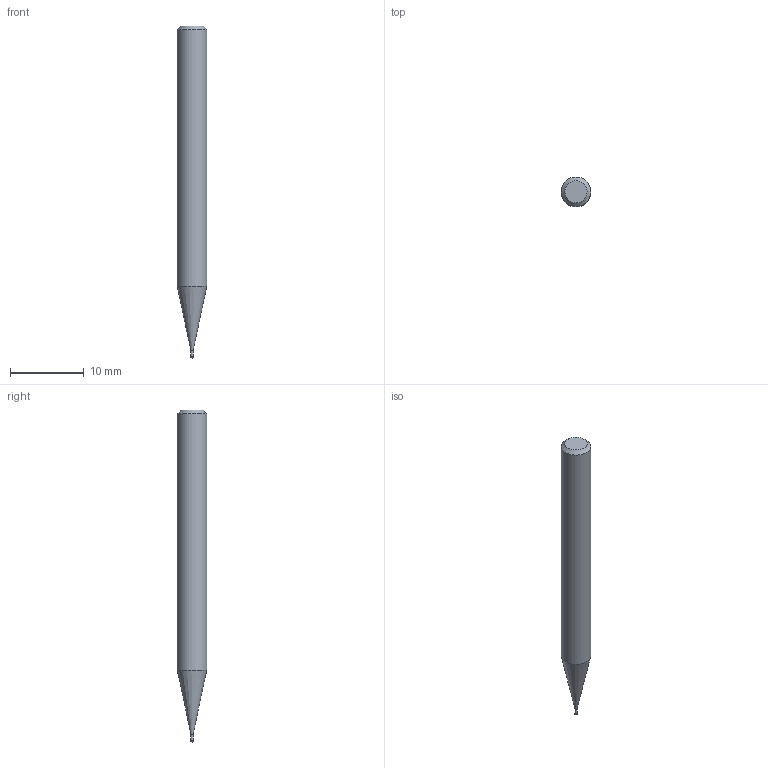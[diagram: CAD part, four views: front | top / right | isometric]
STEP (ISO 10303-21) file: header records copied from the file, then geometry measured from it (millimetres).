
FILE_DESCRIPTION((''),'2;1');
FILE_NAME('C:\Users\nsx150\AppData\Local\Temp\Mastercam 2021\ZXBT0ST9RL\TEMP.step','2021-06-25T11:02:12',(''),(''),'STEP Write','Mastercam 2021 ... CNC Software, Inc.','');
FILE_SCHEMA(('AUTOMOTIVE_DESIGN'));
Length unit declared in the file: millimetre
Products named in the file (1): None
Bounding box: 4 x 4 x 45 mm (x, y, z)
Volume: 481 mm3; surface area: 512.7 mm2
Topology: 2 solids, 2 shells, 9 faces, 14 edges, 8 vertices
Faces by surface type: plane 3, cylinder 3, cone 2, sphere 1
Full cylindrical faces by diameter (mm): 0.28 x1, 0.3 x1, 4 x1
Entity records: 211 total; most frequent: DIRECTION 36, CARTESIAN_POINT 25, AXIS2_PLACEMENT_3D 18, ORIENTED_EDGE 14, EDGE_LOOP 14, STYLED_ITEM 12, ADVANCED_FACE 9, FACE_BOUND 8
